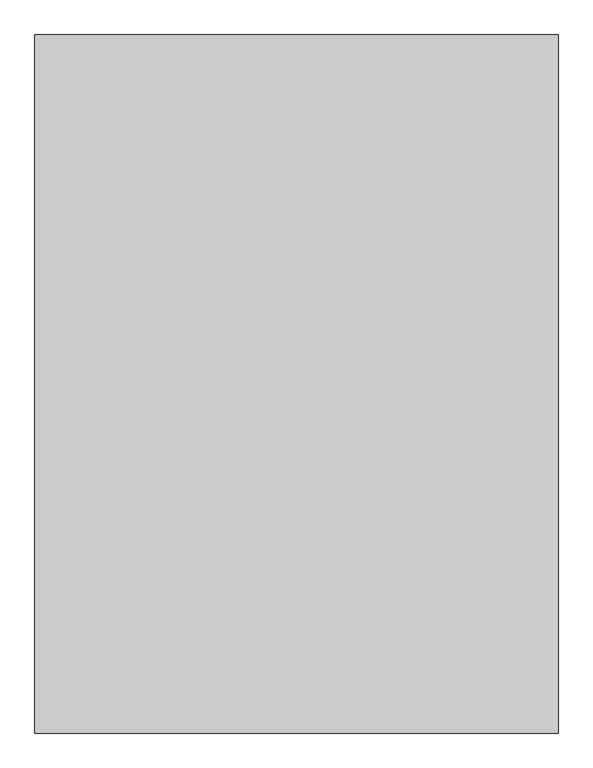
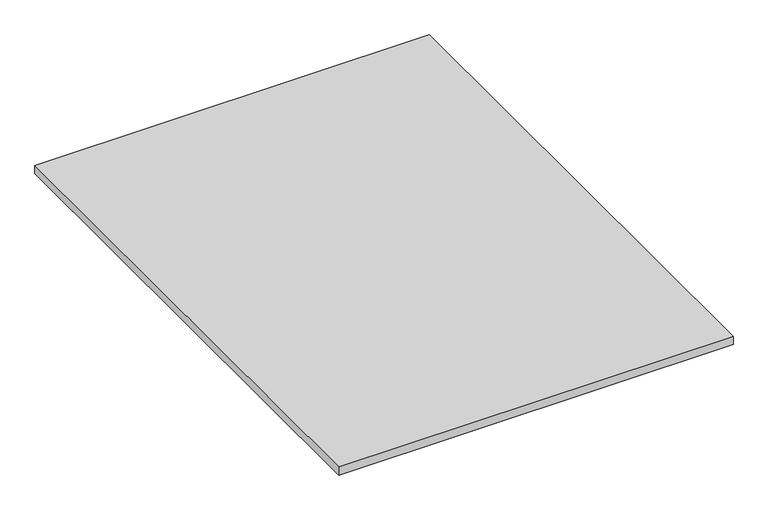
"""IFC4 building model written with IfcOpenShell, lengths in millimetres: proxy geometry, Base de duche14 : Base de duche."""

from ifc_helpers import new_model, si_unit, origin, origin_with_axes, place, context, project, spatial, polyline, outline, extrude, source, transform, mapped, element, save


def generic_models_ea0271d4(model_context):
    return source(origin(), model_context, "Body", "SweptSolid", [
        extrude(outline(polyline([(18752.000777, 16442.1029258), (18752.000777, 15242.1029258), (17852.000777, 15242.1029258), (17852.000777, 16442.1029258), (18752.000777, 16442.1029258)])), origin_with_axes(), (0.0, 0.0, 1.0), 20.0),
    ])


if __name__ == "__main__":
    model = new_model("IFC4")
    model_context = context("Model", 3, world=origin())
    ifc_project = project(units=[si_unit("LENGTHUNIT", "METRE", prefix="MILLI")], contexts=[model_context])
    site = spatial("IfcSite", under=ifc_project)
    building = spatial("IfcBuilding", under=site)
    placement = place(None, origin())
    generic_models_shape = generic_models_ea0271d4(model_context)
    element("IfcBuildingElementProxy", 1, Name="Base de duche14 : Base de duche", ObjectType="Base de duche14 : Base de duche", at=placement, inside=building, context=model_context, shape_type="MappedRepresentation", body=[
        mapped(generic_models_shape, transform((0.0, 0.0, 0.0), x_axis=(1.0, 0.0, 0.0), y_axis=(0.0, 1.0, 0.0), z_axis=(0.0, 0.0, 1.0))),
    ])
    save(model, "model.ifc")
